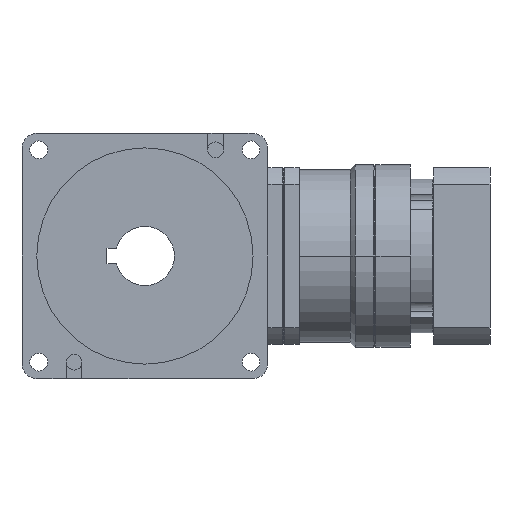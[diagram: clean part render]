
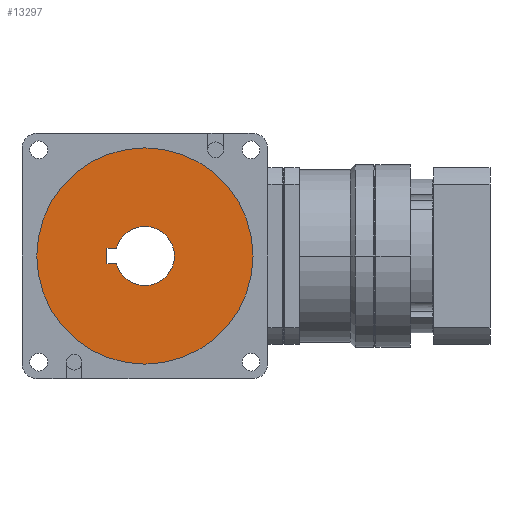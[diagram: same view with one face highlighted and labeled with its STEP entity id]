
A CAD part, left-side view. The second image highlights one B-rep face of the part: STEP entity #13297.
In plain terms, the highlighted planar face has unit normal (-1, 0, 0).
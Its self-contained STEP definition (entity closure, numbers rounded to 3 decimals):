
#178 = EDGE_CURVE ( 'NONE', #1002, #10859, #12772, .T. ) ;
#340 = LINE ( 'NONE', #3737, #2328 ) ;
#546 = DIRECTION ( 'NONE',  ( 0., 0., 1. ) ) ;
#633 = DIRECTION ( 'NONE',  ( 0., 1., 0. ) ) ;
#695 = ORIENTED_EDGE ( 'NONE', *, *, #1719, .F. ) ;
#706 = AXIS2_PLACEMENT_3D ( 'NONE', #900, #7505, #546 ) ;
#726 = AXIS2_PLACEMENT_3D ( 'NONE', #10043, #3445, #11199 ) ;
#767 = VERTEX_POINT ( 'NONE', #4994 ) ;
#820 = DIRECTION ( 'NONE',  ( -1., 0., 0. ) ) ;
#854 = CARTESIAN_POINT ( 'NONE',  ( -43., 14.457, -4. ) ) ;
#900 = CARTESIAN_POINT ( 'NONE',  ( -43., 0., 0. ) ) ;
#912 = ORIENTED_EDGE ( 'NONE', *, *, #14390, .T. ) ;
#1002 = VERTEX_POINT ( 'NONE', #7407 ) ;
#1244 = EDGE_CURVE ( 'NONE', #2989, #10859, #340, .T. ) ;
#1352 = ORIENTED_EDGE ( 'NONE', *, *, #9929, .T. ) ;
#1696 = VERTEX_POINT ( 'NONE', #12115 ) ;
#1719 = EDGE_CURVE ( 'NONE', #13594, #9374, #11950, .T. ) ;
#1742 = AXIS2_PLACEMENT_3D ( 'NONE', #13151, #2814, #11896 ) ;
#2225 = CARTESIAN_POINT ( 'NONE',  ( -43., 14.457, 4. ) ) ;
#2328 = VECTOR ( 'NONE', #7087, 1000. ) ;
#2814 = DIRECTION ( 'NONE',  ( -1., 0., 0. ) ) ;
#2947 = DIRECTION ( 'NONE',  ( 0., 0., 1. ) ) ;
#2989 = VERTEX_POINT ( 'NONE', #2225 ) ;
#3320 = EDGE_CURVE ( 'NONE', #9374, #3834, #10650, .T. ) ;
#3380 = FACE_OUTER_BOUND ( 'NONE', #9451, .T. ) ;
#3445 = DIRECTION ( 'NONE',  ( -1., 0., 0. ) ) ;
#3737 = CARTESIAN_POINT ( 'NONE',  ( -43., 0., 4. ) ) ;
#3830 = VECTOR ( 'NONE', #633, 1000. ) ;
#3834 = VERTEX_POINT ( 'NONE', #5631 ) ;
#4195 = DIRECTION ( 'NONE',  ( 0., 0., 1. ) ) ;
#4465 = PLANE ( 'NONE',  #726 ) ;
#4966 = ORIENTED_EDGE ( 'NONE', *, *, #1244, .F. ) ;
#4994 = CARTESIAN_POINT ( 'NONE',  ( -43., 0., -55. ) ) ;
#5099 = ORIENTED_EDGE ( 'NONE', *, *, #7183, .T. ) ;
#5226 = ORIENTED_EDGE ( 'NONE', *, *, #3320, .F. ) ;
#5445 = CARTESIAN_POINT ( 'NONE',  ( -43., 0., 0. ) ) ;
#5540 = CIRCLE ( 'NONE', #7653, 15. ) ;
#5631 = CARTESIAN_POINT ( 'NONE',  ( -43., 0., 15. ) ) ;
#5801 = CARTESIAN_POINT ( 'NONE',  ( -43., 19.3, 0. ) ) ;
#5815 = CIRCLE ( 'NONE', #9108, 55. ) ;
#6743 = ORIENTED_EDGE ( 'NONE', *, *, #6779, .F. ) ;
#6779 = EDGE_CURVE ( 'NONE', #3834, #2989, #5540, .T. ) ;
#6887 = DIRECTION ( 'NONE',  ( 0., 0., 1. ) ) ;
#6916 = FACE_BOUND ( 'NONE', #10375, .T. ) ;
#7087 = DIRECTION ( 'NONE',  ( 0., 1., 0. ) ) ;
#7183 = EDGE_CURVE ( 'NONE', #13594, #1002, #9813, .T. ) ;
#7407 = CARTESIAN_POINT ( 'NONE',  ( -43., 19.3, -4. ) ) ;
#7505 = DIRECTION ( 'NONE',  ( -1., 0., 0. ) ) ;
#7612 = CARTESIAN_POINT ( 'NONE',  ( -43., 0., -4. ) ) ;
#7653 = AXIS2_PLACEMENT_3D ( 'NONE', #10920, #10784, #2947 ) ;
#8666 = VECTOR ( 'NONE', #6887, 1000. ) ;
#9108 = AXIS2_PLACEMENT_3D ( 'NONE', #11886, #820, #4195 ) ;
#9374 = VERTEX_POINT ( 'NONE', #10677 ) ;
#9451 = EDGE_LOOP ( 'NONE', ( #912, #1352 ) ) ;
#9709 = DIRECTION ( 'NONE',  ( 0., 0., 1. ) ) ;
#9813 = LINE ( 'NONE', #7612, #3830 ) ;
#9929 = EDGE_CURVE ( 'NONE', #767, #1696, #14518, .T. ) ;
#10043 = CARTESIAN_POINT ( 'NONE',  ( -43., 0., 0. ) ) ;
#10375 = EDGE_LOOP ( 'NONE', ( #695, #5099, #11904, #4966, #6743, #5226 ) ) ;
#10522 = AXIS2_PLACEMENT_3D ( 'NONE', #5445, #11090, #9709 ) ;
#10650 = CIRCLE ( 'NONE', #1742, 15. ) ;
#10677 = CARTESIAN_POINT ( 'NONE',  ( -43., 0., -15. ) ) ;
#10784 = DIRECTION ( 'NONE',  ( -1., 0., 0. ) ) ;
#10859 = VERTEX_POINT ( 'NONE', #14117 ) ;
#10920 = CARTESIAN_POINT ( 'NONE',  ( -43., 0., 0. ) ) ;
#11090 = DIRECTION ( 'NONE',  ( -1., 0., 0. ) ) ;
#11199 = DIRECTION ( 'NONE',  ( 0., 0., 1. ) ) ;
#11886 = CARTESIAN_POINT ( 'NONE',  ( -43., 0., 0. ) ) ;
#11896 = DIRECTION ( 'NONE',  ( 0., 0., 1. ) ) ;
#11904 = ORIENTED_EDGE ( 'NONE', *, *, #178, .T. ) ;
#11950 = CIRCLE ( 'NONE', #706, 15. ) ;
#12115 = CARTESIAN_POINT ( 'NONE',  ( -43., 0., 55. ) ) ;
#12772 = LINE ( 'NONE', #5801, #8666 ) ;
#13151 = CARTESIAN_POINT ( 'NONE',  ( -43., 0., 0. ) ) ;
#13297 = ADVANCED_FACE ( 'NONE', ( #6916, #3380 ), #4465, .T. ) ;
#13594 = VERTEX_POINT ( 'NONE', #854 ) ;
#14117 = CARTESIAN_POINT ( 'NONE',  ( -43., 19.3, 4. ) ) ;
#14390 = EDGE_CURVE ( 'NONE', #1696, #767, #5815, .T. ) ;
#14518 = CIRCLE ( 'NONE', #10522, 55. ) ;
